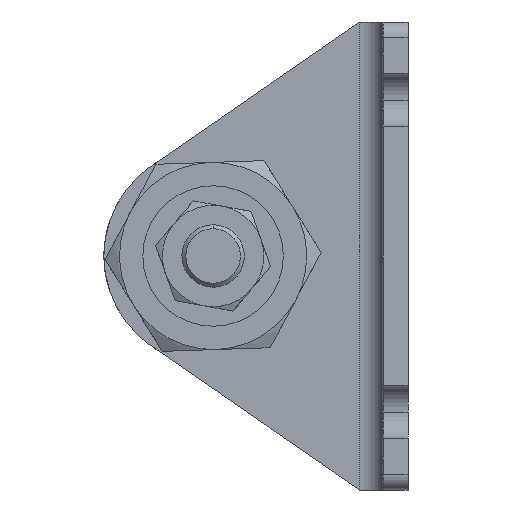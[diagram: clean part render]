
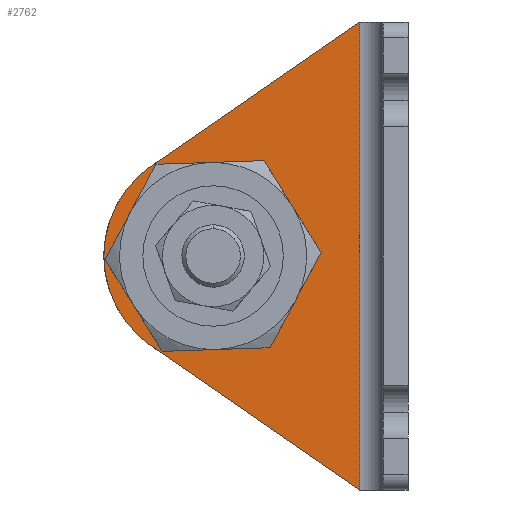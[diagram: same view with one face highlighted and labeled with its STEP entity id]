
A CAD part, left-side view. The second image highlights one B-rep face of the part: STEP entity #2762.
In plain terms, the highlighted planar face has unit normal (-1, 0, 0) as drawn and (1, 0, 0) by its records, which use the part's own axes.
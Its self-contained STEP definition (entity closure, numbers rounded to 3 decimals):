
#79 = CIRCLE ( 'NONE', #2962, 9.5 ) ;
#181 = CARTESIAN_POINT ( 'NONE',  ( 3.2, 25., -30. ) ) ;
#292 = CARTESIAN_POINT ( 'NONE',  ( 3.2, 25., -30. ) ) ;
#299 = CARTESIAN_POINT ( 'NONE',  ( 3.2, 39., -30. ) ) ;
#317 = ORIENTED_EDGE ( 'NONE', *, *, #1224, .F. ) ;
#344 = ORIENTED_EDGE ( 'NONE', *, *, #2953, .T. ) ;
#370 = VERTEX_POINT ( 'NONE', #3476 ) ;
#373 = EDGE_LOOP ( 'NONE', ( #317, #3004 ) ) ;
#423 = CARTESIAN_POINT ( 'NONE',  ( 3.2, 25., -30. ) ) ;
#427 = AXIS2_PLACEMENT_3D ( 'NONE', #1415, #3236, #1176 ) ;
#429 = CARTESIAN_POINT ( 'NONE',  ( 3.2, 32.956, -41.519 ) ) ;
#611 = DIRECTION ( 'NONE',  ( 1., 0., 0. ) ) ;
#676 = DIRECTION ( 'NONE',  ( 0., 0.823, 0.568 ) ) ;
#866 = CARTESIAN_POINT ( 'NONE',  ( 3.2, 6.2, -60. ) ) ;
#998 = VERTEX_POINT ( 'NONE', #3245 ) ;
#1099 = CARTESIAN_POINT ( 'NONE',  ( 3.2, 3.2, -60. ) ) ;
#1134 = CARTESIAN_POINT ( 'NONE',  ( 3.2, 32.956, -18.481 ) ) ;
#1141 = DIRECTION ( 'NONE',  ( 0., 1., 0. ) ) ;
#1175 = CIRCLE ( 'NONE', #3482, 14. ) ;
#1176 = DIRECTION ( 'NONE',  ( 0., 1., 0. ) ) ;
#1212 = DIRECTION ( 'NONE',  ( 0., 1., 0. ) ) ;
#1224 = EDGE_CURVE ( 'NONE', #998, #370, #79, .T. ) ;
#1381 = CARTESIAN_POINT ( 'NONE',  ( 3.2, 32.226, -17.976 ) ) ;
#1394 = DIRECTION ( 'NONE',  ( 0., 0.823, -0.568 ) ) ;
#1415 = CARTESIAN_POINT ( 'NONE',  ( 3.2, 25., -30. ) ) ;
#1436 = AXIS2_PLACEMENT_3D ( 'NONE', #181, #2239, #2261 ) ;
#1499 = EDGE_CURVE ( 'NONE', #2556, #3839, #3403, .T. ) ;
#1528 = FACE_BOUND ( 'NONE', #373, .T. ) ;
#1588 = VECTOR ( 'NONE', #676, 1000. ) ;
#1632 = LINE ( 'NONE', #2150, #1588 ) ;
#1636 = DIRECTION ( 'NONE',  ( 1., 0., 0. ) ) ;
#1705 = ORIENTED_EDGE ( 'NONE', *, *, #1499, .F. ) ;
#1745 = EDGE_CURVE ( 'NONE', #2556, #3519, #3366, .T. ) ;
#1758 = DIRECTION ( 'NONE',  ( 0., 0., -1. ) ) ;
#1982 = PLANE ( 'NONE',  #2520 ) ;
#2146 = VERTEX_POINT ( 'NONE', #429 ) ;
#2150 = CARTESIAN_POINT ( 'NONE',  ( 3.2, 4.169, -61.403 ) ) ;
#2239 = DIRECTION ( 'NONE',  ( 1., 0., 0. ) ) ;
#2261 = DIRECTION ( 'NONE',  ( 0., 1., 0. ) ) ;
#2325 = VERTEX_POINT ( 'NONE', #299 ) ;
#2333 = EDGE_LOOP ( 'NONE', ( #3344, #2695, #344, #1705, #2702 ) ) ;
#2442 = CARTESIAN_POINT ( 'NONE',  ( 3.2, 6.2, -60. ) ) ;
#2520 = AXIS2_PLACEMENT_3D ( 'NONE', #1099, #2601, #1141 ) ;
#2538 = FACE_OUTER_BOUND ( 'NONE', #2333, .T. ) ;
#2552 = CIRCLE ( 'NONE', #427, 9.5 ) ;
#2556 = VERTEX_POINT ( 'NONE', #2653 ) ;
#2597 = VECTOR ( 'NONE', #1394, 1000. ) ;
#2601 = DIRECTION ( 'NONE',  ( 1., 0., 0. ) ) ;
#2653 = CARTESIAN_POINT ( 'NONE',  ( 3.2, 6.2, 0. ) ) ;
#2695 = ORIENTED_EDGE ( 'NONE', *, *, #3145, .T. ) ;
#2702 = ORIENTED_EDGE ( 'NONE', *, *, #1745, .T. ) ;
#2762 = ADVANCED_FACE ( 'NONE', ( #1528, #2538 ), #1982, .T. ) ;
#2953 = EDGE_CURVE ( 'NONE', #2325, #3839, #1175, .T. ) ;
#2962 = AXIS2_PLACEMENT_3D ( 'NONE', #423, #1636, #3721 ) ;
#2972 = EDGE_CURVE ( 'NONE', #3519, #2146, #1632, .T. ) ;
#2986 = VECTOR ( 'NONE', #1758, 1000. ) ;
#3004 = ORIENTED_EDGE ( 'NONE', *, *, #3239, .F. ) ;
#3145 = EDGE_CURVE ( 'NONE', #2146, #2325, #3549, .T. ) ;
#3236 = DIRECTION ( 'NONE',  ( 1., 0., 0. ) ) ;
#3239 = EDGE_CURVE ( 'NONE', #370, #998, #2552, .T. ) ;
#3245 = CARTESIAN_POINT ( 'NONE',  ( 3.2, 34.5, -30. ) ) ;
#3344 = ORIENTED_EDGE ( 'NONE', *, *, #2972, .T. ) ;
#3366 = LINE ( 'NONE', #866, #2986 ) ;
#3403 = LINE ( 'NONE', #1381, #2597 ) ;
#3476 = CARTESIAN_POINT ( 'NONE',  ( 3.2, 15.5, -30. ) ) ;
#3482 = AXIS2_PLACEMENT_3D ( 'NONE', #292, #611, #1212 ) ;
#3519 = VERTEX_POINT ( 'NONE', #2442 ) ;
#3549 = CIRCLE ( 'NONE', #1436, 14. ) ;
#3721 = DIRECTION ( 'NONE',  ( 0., 1., 0. ) ) ;
#3839 = VERTEX_POINT ( 'NONE', #1134 ) ;
